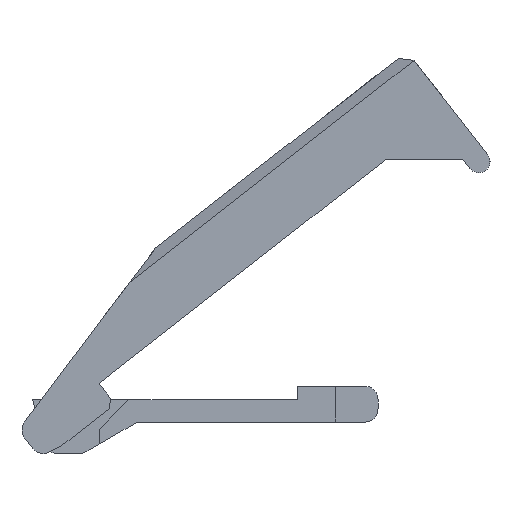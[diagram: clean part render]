
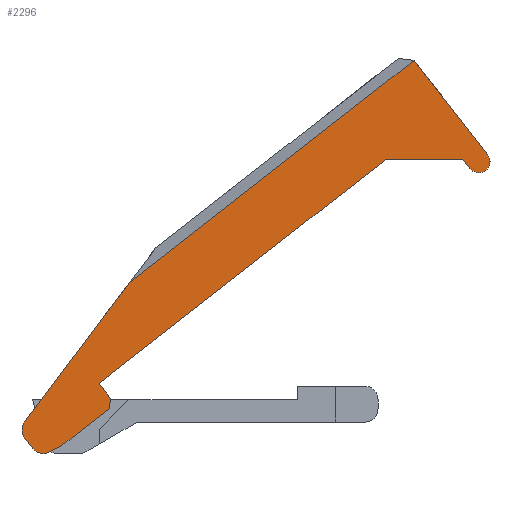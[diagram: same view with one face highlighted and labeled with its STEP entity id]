
A CAD part, left-side view. The second image highlights one B-rep face of the part: STEP entity #2296.
In plain terms, the highlighted planar face has unit normal (-1, 0, 0).
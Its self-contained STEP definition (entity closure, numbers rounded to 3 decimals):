
#2046=CIRCLE('',#7459,1.25);
#2047=CIRCLE('',#7464,1.5);
#2050=CIRCLE('',#7469,1.5);
#2296=ADVANCED_FACE('',(#2736),#2492,.T.);
#2492=PLANE('',#7489);
#2736=FACE_OUTER_BOUND('',#2988,.T.);
#2988=EDGE_LOOP('',(#4504,#4505,#4506,#4507,#4508,#4509,#4510,#4511,#4512,
#4513,#4514,#4515,#4516,#4517,#4518));
#4504=ORIENTED_EDGE('',*,*,#5899,.T.);
#4505=ORIENTED_EDGE('',*,*,#5839,.T.);
#4506=ORIENTED_EDGE('',*,*,#5888,.F.);
#4507=ORIENTED_EDGE('',*,*,#5856,.T.);
#4508=ORIENTED_EDGE('',*,*,#5853,.F.);
#4509=ORIENTED_EDGE('',*,*,#5849,.T.);
#4510=ORIENTED_EDGE('',*,*,#5846,.F.);
#4511=ORIENTED_EDGE('',*,*,#5842,.T.);
#4512=ORIENTED_EDGE('',*,*,#5860,.T.);
#4513=ORIENTED_EDGE('',*,*,#5905,.F.);
#4514=ORIENTED_EDGE('',*,*,#5906,.T.);
#4515=ORIENTED_EDGE('',*,*,#5907,.T.);
#4516=ORIENTED_EDGE('',*,*,#5904,.T.);
#4517=ORIENTED_EDGE('',*,*,#5834,.T.);
#4518=ORIENTED_EDGE('',*,*,#5837,.T.);
#5071=VERTEX_POINT('',#10397);
#5075=VERTEX_POINT('',#10409);
#5076=VERTEX_POINT('',#10411);
#5077=VERTEX_POINT('',#10415);
#5078=VERTEX_POINT('',#10419);
#5081=VERTEX_POINT('',#10426);
#5082=VERTEX_POINT('',#10428);
#5085=VERTEX_POINT('',#10436);
#5087=VERTEX_POINT('',#10442);
#5090=VERTEX_POINT('',#10450);
#5092=VERTEX_POINT('',#10456);
#5095=VERTEX_POINT('',#10463);
#5122=VERTEX_POINT('',#10547);
#5123=VERTEX_POINT('',#10551);
#5124=VERTEX_POINT('',#10553);
#5834=EDGE_CURVE('',#5076,#5075,#6471,.T.);
#5837=EDGE_CURVE('',#5075,#5077,#2046,.T.);
#5839=EDGE_CURVE('',#5071,#5078,#6475,.T.);
#5842=EDGE_CURVE('',#5082,#5081,#6478,.T.);
#5846=EDGE_CURVE('',#5082,#5085,#6482,.T.);
#5849=EDGE_CURVE('',#5087,#5085,#2047,.T.);
#5853=EDGE_CURVE('',#5087,#5090,#6487,.T.);
#5856=EDGE_CURVE('',#5092,#5090,#2050,.T.);
#5860=EDGE_CURVE('',#5081,#5095,#6492,.T.);
#5888=EDGE_CURVE('',#5092,#5078,#6516,.T.);
#5899=EDGE_CURVE('',#5077,#5071,#6527,.T.);
#5904=EDGE_CURVE('',#5122,#5076,#6532,.T.);
#5905=EDGE_CURVE('',#5123,#5095,#6533,.T.);
#5906=EDGE_CURVE('',#5123,#5124,#6534,.T.);
#5907=EDGE_CURVE('',#5124,#5122,#6535,.T.);
#6471=LINE('',#10410,#7099);
#6475=LINE('',#10420,#7103);
#6478=LINE('',#10427,#7106);
#6482=LINE('',#10435,#7110);
#6487=LINE('',#10449,#7115);
#6492=LINE('',#10464,#7120);
#6516=LINE('',#10518,#7144);
#6527=LINE('',#10539,#7155);
#6532=LINE('',#10548,#7160);
#6533=LINE('',#10550,#7161);
#6534=LINE('',#10552,#7162);
#6535=LINE('',#10554,#7163);
#7099=VECTOR('',#8614,1.);
#7103=VECTOR('',#8624,1.);
#7106=VECTOR('',#8629,1.);
#7110=VECTOR('',#8635,1.);
#7115=VECTOR('',#8648,1.);
#7120=VECTOR('',#8661,1.);
#7144=VECTOR('',#8707,1.);
#7155=VECTOR('',#8726,1.);
#7160=VECTOR('',#8735,1.);
#7161=VECTOR('',#8738,1.);
#7162=VECTOR('',#8739,1.);
#7163=VECTOR('',#8740,1.);
#7459=AXIS2_PLACEMENT_3D('',#10416,#8619,#8620);
#7464=AXIS2_PLACEMENT_3D('',#10441,#8640,#8641);
#7469=AXIS2_PLACEMENT_3D('',#10455,#8654,#8655);
#7489=AXIS2_PLACEMENT_3D('',#10555,#8741,#8742);
#8614=DIRECTION('',(0.,-0.616,-0.788));
#8619=DIRECTION('',(-1.,0.,0.));
#8620=DIRECTION('',(0.,0.616,0.788));
#8624=DIRECTION('',(0.,0.788,-0.616));
#8629=DIRECTION('',(0.,-0.788,0.616));
#8635=DIRECTION('',(0.,0.883,-0.469));
#8640=DIRECTION('',(-1.,0.,0.));
#8641=DIRECTION('',(0.,0.616,0.788));
#8648=DIRECTION('',(0.,0.616,0.788));
#8654=DIRECTION('',(-1.,0.,0.));
#8655=DIRECTION('',(0.,0.616,0.788));
#8661=DIRECTION('',(0.,-0.122,0.993));
#8707=DIRECTION('',(0.,-0.602,0.799));
#8726=DIRECTION('',(0.,0.616,0.788));
#8735=DIRECTION('',(0.,-1.,0.));
#8738=DIRECTION('',(0.,-0.616,-0.788));
#8739=DIRECTION('',(0.,-0.788,0.616));
#8740=DIRECTION('',(0.,-0.788,0.616));
#8741=DIRECTION('',(-1.,0.,0.));
#8742=DIRECTION('',(0.,-0.788,0.616));
#10397=CARTESIAN_POINT('',(-26.325,27.648,8.037));
#10409=CARTESIAN_POINT('',(-26.325,21.43,-3.982));
#10410=CARTESIAN_POINT('',(-26.325,25.263,0.923));
#10411=CARTESIAN_POINT('',(-26.325,22.23,-2.958));
#10415=CARTESIAN_POINT('',(-26.325,19.46,-2.443));
#10416=CARTESIAN_POINT('',(-26.325,20.445,-3.213));
#10419=CARTESIAN_POINT('',(-26.325,59.299,-16.691));
#10420=CARTESIAN_POINT('',(-26.325,27.648,8.037));
#10426=CARTESIAN_POINT('',(-26.325,61.555,-30.7));
#10427=CARTESIAN_POINT('',(-26.325,21.707,0.433));
#10428=CARTESIAN_POINT('',(-26.325,66.821,-34.814));
#10435=CARTESIAN_POINT('',(-26.325,17.435,-8.555));
#10436=CARTESIAN_POINT('',(-26.325,68.175,-35.534));
#10441=CARTESIAN_POINT('',(-26.325,68.879,-34.209));
#10442=CARTESIAN_POINT('',(-26.325,70.061,-35.133));
#10449=CARTESIAN_POINT('',(-26.325,68.417,-37.238));
#10450=CARTESIAN_POINT('',(-26.325,70.948,-33.997));
#10455=CARTESIAN_POINT('',(-26.325,69.766,-33.074));
#10456=CARTESIAN_POINT('',(-26.325,70.964,-32.171));
#10463=CARTESIAN_POINT('',(-26.325,61.414,-29.552));
#10464=CARTESIAN_POINT('',(-26.325,62.184,-35.822));
#10518=CARTESIAN_POINT('',(-26.325,67.075,-27.009));
#10539=CARTESIAN_POINT('',(-26.325,23.293,2.462));
#10547=CARTESIAN_POINT('',(-26.325,30.758,-2.958));
#10548=CARTESIAN_POINT('',(-26.325,23.293,-2.958));
#10550=CARTESIAN_POINT('',(-26.325,62.496,-28.167));
#10551=CARTESIAN_POINT('',(-26.325,62.696,-27.911));
#10552=CARTESIAN_POINT('',(-26.325,62.696,-27.911));
#10553=CARTESIAN_POINT('',(-26.325,61.055,-26.629));
#10554=CARTESIAN_POINT('',(-26.325,62.696,-27.911));
#10555=CARTESIAN_POINT('',(-26.325,23.293,2.462));
